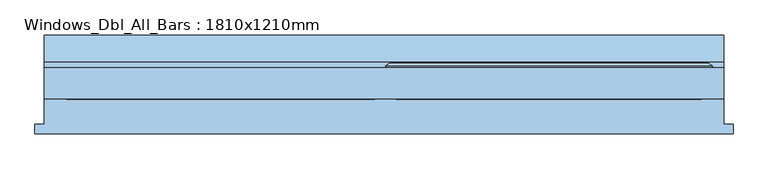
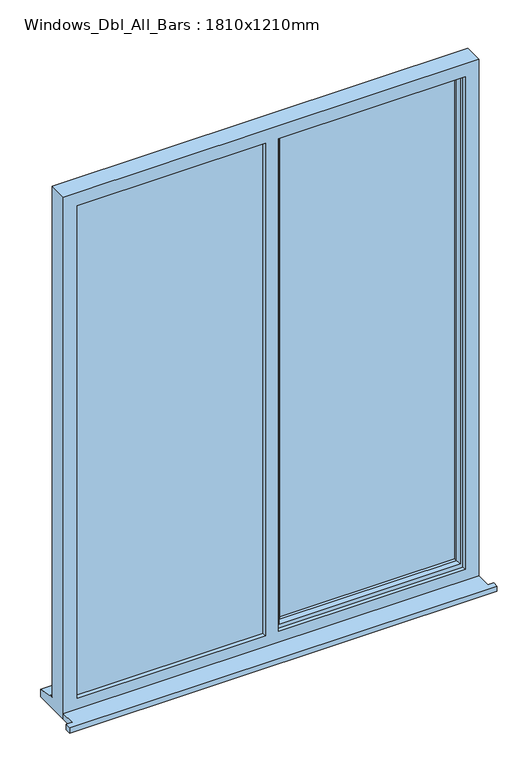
"""IFC4 building model written with IfcOpenShell, lengths in millimetres: window geometry, Windows_Dbl_All_Bars : 1810x1210mm."""

from ifc_helpers import new_model, si_unit, frame, origin, place, context, project, spatial, polyline, outline, extrude, faceted_brep, source, transform, mapped, element, save


def windows_dbl_all_bars_1810x1210mm_8c694ecc(model_context):
    return source(origin(), model_context, "Body", "SolidModel", [
        extrude(outline(polyline([(-1215.0, -116.5434322), (-1215.0, -91.5434322), (-1190.0, -91.5434322), (-1190.0, -24.5434322), (620.0, -24.5434322), (620.0, -91.5434322), (645.0, -91.5434322), (645.0, -116.5434322), (-1215.0, -116.5434322)])), frame((0.0, 0.0, -290.0), z_axis=(0.0, 0.0, 1.0), x_axis=(1.0, 0.0, 0.0)), (0.0, 0.0, 1.0), 25.0),
        extrude(outline(polyline([(1294.3333333, -715.0), (1294.3333333, -300.0), (1314.3333333, -300.0), (1314.3333333, -715.0), (2070.0, -715.0), (2070.0, -735.0), (1314.3333333, -735.0), (1314.3333333, -1150.0), (1294.3333333, -1150.0), (1294.3333333, -735.0), (548.6666667, -735.0), (548.6666667, -1150.0), (528.6666667, -1150.0), (528.6666667, -735.0), (-227.0, -735.0), (-227.0, -715.0), (528.6666667, -715.0), (528.6666667, -300.0), (548.6666667, -300.0), (548.6666667, -715.0), (1294.3333333, -715.0)])), frame((0.0, 1.4565678, 0.0), z_axis=(0.0, 1.0, 0.0), x_axis=(0.0, 0.0, 1.0)), (0.0, 0.0, 1.0), 8.0),
        faceted_brep([(620.0, -24.5434322, 2110.0), (-1190.0, -24.5434322, 2110.0), (-1190.0, -24.5434322, -290.0), (620.0, -24.5434322, -290.0), (560.0, -24.5434322, 2050.0), (560.0, -24.5434322, -215.0), (-252.0, -24.5434322, -215.0), (-252.0, -24.5434322, 2050.0), (-310.0, -24.5434322, 2050.0), (-310.0, -24.5434322, -215.0), (-1130.0, -24.5434322, -215.0), (-1130.0, -24.5434322, 2050.0), (-1190.0, 58.4565678, 2110.0), (-1190.0, 58.4565678, -239.0), (-1190.0, 73.4565678, -240.31233), (-1190.0, 73.4565678, -245.2550324), (-1190.0, 145.9565678, -256.1911153), (-1190.0, 145.9565678, -290.0), (620.0, 58.4565678, 2110.0), (620.0, 58.4565678, -239.0), (-1150.0, 58.4565678, 2070.0), (-1150.0, 58.4565678, -227.0), (-310.0, 58.4565678, -227.0), (-310.0, 58.4565678, 2070.0), (-270.0, 58.4565678, 2070.0), (-270.0, 58.4565678, -227.0), (580.0, 58.4565678, -227.0), (580.0, 58.4565678, 2070.0), (-1150.0, -6.5434322, 2070.0), (-1150.0, -6.5434322, -227.0), (-300.0, -6.5434322, 2070.0), (-300.0, -6.5434322, -227.0), (-310.0, -6.5434322, 2050.0), (-1130.0, -6.5434322, 2050.0), (-1130.0, -6.5434322, -215.0), (-310.0, -6.5434322, -215.0), (-270.0, -6.5434322, 2070.0), (580.0, -6.5434322, 2070.0), (580.0, -6.5434322, -227.0), (-270.0, -6.5434322, -227.0), (560.0, -6.5434322, 2050.0), (-252.0, -6.5434322, 2050.0), (-252.0, -6.5434322, -215.0), (560.0, -6.5434322, -215.0), (-310.0, 17.4565678, 2070.0), (-300.0, 17.4565678, 2070.0), (620.0, 145.9565678, -290.0), (620.0, 145.9565678, -256.1911153), (620.0, 73.4565678, -245.2550324), (620.0, 73.4565678, -240.31233), (-300.0, 17.4565678, -227.0), (-310.0, 17.4565678, -227.0)], [[[0, 1, 2, 3], [4, 5, 6, 7], [8, 9, 10, 11]], [[2, 1, 12, 13, 14, 15, 16, 17]], [[13, 12, 18, 19], [20, 21, 22, 23], [24, 25, 26, 27]], [[21, 20, 28, 29]], [[28, 30, 31, 29], [32, 33, 34, 35]], [[36, 37, 38, 39], [40, 41, 42, 43]], [[33, 11, 10, 34]], [[1, 0, 18, 12]], [[28, 20, 23, 44, 45, 30]], [[27, 37, 36, 24]], [[11, 33, 32, 8]], [[40, 4, 7, 41]], [[19, 18, 0, 3, 46, 47, 48, 49]], [[27, 26, 38, 37]], [[4, 40, 43, 5]], [[45, 50, 31, 30]], [[50, 45, 44, 51]], [[51, 44, 23, 22]], [[25, 24, 36, 39]], [[41, 7, 6, 42]], [[8, 32, 35, 9]], [[46, 3, 2, 17]], [[47, 46, 17, 16]], [[48, 47, 16, 15]], [[49, 48, 15, 14]], [[19, 49, 14, 13]], [[22, 21, 29, 31, 50, 51]], [[26, 25, 39, 38]], [[6, 5, 43, 42]], [[35, 34, 10, 9]]]),
        extrude(outline(polyline([(550.0, 22.4565678), (-240.0, 22.4565678), (-240.0, 46.4565678), (550.0, 46.4565678), (550.0, 22.4565678)])), frame((0.0, 0.0, -197.0), z_axis=(0.0, 0.0, 1.0), x_axis=(1.0, 0.0, 0.0)), (0.0, 0.0, 1.0), 2237.0),
        extrude(outline(polyline([(-1150.0, 17.4565678), (-300.0, 17.4565678), (-300.0, -6.5434322), (-1150.0, -6.5434322), (-1150.0, 17.4565678)])), frame((0.0, 0.0, -227.0), z_axis=(0.0, 0.0, 1.0), x_axis=(1.0, 0.0, 0.0)), (0.0, 0.0, 1.0), 2297.0),
        extrude(outline(polyline([(-197.0, 145.0), (-197.0, 165.0), (528.6666667, 165.0), (528.6666667, 550.0), (548.6666667, 550.0), (548.6666667, 165.0), (1294.3333333, 165.0), (1294.3333333, 550.0), (1314.3333333, 550.0), (1314.3333333, 165.0), (2040.0, 165.0), (2040.0, 145.0), (1314.3333333, 145.0), (1314.3333333, -240.0), (1294.3333333, -240.0), (1294.3333333, 145.0), (548.6666667, 145.0), (548.6666667, -240.0), (528.6666667, -240.0), (528.6666667, 145.0), (-197.0, 145.0)])), frame((0.0, 30.4565678, 0.0), z_axis=(0.0, 1.0, 0.0), x_axis=(0.0, 0.0, 1.0)), (0.0, 0.0, 1.0), 8.0),
        extrude(outline(polyline([(2050.0, -310.0), (2070.0, -310.0), (2070.0, -1150.0), (-227.0, -1150.0), (-227.0, -310.0), (-207.0, -310.0), (-207.0, -1130.0), (2050.0, -1130.0), (2050.0, -310.0)])), frame((0.0, 17.4565678, 0.0), z_axis=(0.0, 1.0, 0.0), x_axis=(0.0, 0.0, 1.0)), (0.0, 0.0, 1.0), 41.0),
        faceted_brep([(-280.0, 58.4565678, 2080.0), (-280.0, 64.2300705, 2080.0), (-280.0, 64.2300705, -237.0), (-280.0, 58.4565678, -237.0), (-270.0, -6.5434322, 2070.0), (-270.0, 58.4565678, 2070.0), (-270.0, 58.4565678, -227.0), (-270.0, -6.5434322, -227.0), (-230.0, 7.9494677, 2030.0), (-240.1480377, -6.5434322, 2040.1480377), (-240.1480377, -6.5434322, -197.1480377), (-230.0, 7.9494677, -187.0), (-230.0, 22.4565678, 2030.0), (-230.0, 22.4565678, -187.0), (-240.0, 46.4565678, 2040.0), (-240.0, 22.4565678, 2040.0), (-240.0, 22.4565678, -197.0), (-240.0, 46.4565678, -197.0), (-230.0, 64.2300705, 2030.0), (-230.0, 46.4565678, 2030.0), (-230.0, 46.4565678, -187.0), (-230.0, 64.2300705, -187.0), (-247.4457548, 70.0035732, 2047.4457548), (-247.4457548, 70.0035732, -204.4457548), (-269.2153903, 70.0035732, 2069.2153903), (-269.2153903, 70.0035732, -226.2153903), (590.0, 64.2300705, -237.0), (590.0, 58.4565678, -237.0), (580.0, 58.4565678, -227.0), (580.0, -6.5434322, -227.0), (550.1480377, -6.5434322, -197.1480377), (540.0, 7.9494677, -187.0), (540.0, 22.4565678, -187.0), (550.0, 22.4565678, -197.0), (550.0, 46.4565678, -197.0), (540.0, 46.4565678, -187.0), (540.0, 64.2300705, -187.0), (557.4457548, 70.0035732, -204.4457548), (579.2153903, 70.0035732, -226.2153903), (590.0, 64.2300705, 2080.0), (590.0, 58.4565678, 2080.0), (580.0, 58.4565678, 2070.0), (580.0, -6.5434322, 2070.0), (550.1480377, -6.5434322, 2040.1480377), (540.0, 7.9494677, 2030.0), (540.0, 22.4565678, 2030.0), (550.0, 22.4565678, 2040.0), (550.0, 46.4565678, 2040.0), (540.0, 46.4565678, 2030.0), (540.0, 64.2300705, 2030.0), (557.4457548, 70.0035732, 2047.4457548), (579.2153903, 70.0035732, 2069.2153903)], [[[0, 1, 2, 3]], [[4, 5, 6, 7]], [[8, 9, 10, 11]], [[12, 8, 11, 13]], [[14, 15, 16, 17]], [[18, 19, 20, 21]], [[22, 18, 21, 23]], [[1, 24, 25, 2]], [[3, 2, 26, 27]], [[7, 6, 28, 29]], [[11, 10, 30, 31]], [[13, 11, 31, 32]], [[17, 16, 33, 34]], [[21, 20, 35, 36]], [[23, 21, 36, 37]], [[2, 25, 38, 26]], [[27, 26, 39, 40]], [[29, 28, 41, 42]], [[31, 30, 43, 44]], [[32, 31, 44, 45]], [[34, 33, 46, 47]], [[36, 35, 48, 49]], [[37, 36, 49, 50]], [[26, 38, 51, 39]], [[40, 39, 1, 0]], [[3, 27, 40, 0], [5, 41, 28, 6]], [[42, 41, 5, 4]], [[7, 29, 42, 4], [9, 43, 30, 10]], [[44, 43, 9, 8]], [[45, 44, 8, 12]], [[15, 46, 33, 16], [13, 32, 45, 12]], [[47, 46, 15, 14]], [[17, 34, 47, 14], [19, 48, 35, 20]], [[49, 48, 19, 18]], [[50, 49, 18, 22]], [[24, 51, 38, 25], [23, 37, 50, 22]], [[39, 51, 24, 1]]]),
    ])


if __name__ == "__main__":
    model = new_model("IFC4")
    model_context = context("Model", 3, world=origin())
    ifc_project = project(units=[si_unit("LENGTHUNIT", "METRE", prefix="MILLI")], contexts=[model_context])
    site = spatial("IfcSite", under=ifc_project)
    building = spatial("IfcBuilding", under=site)
    placement = place(None, origin())
    windows_dbl_all_bars_1810x1210mm_shape = windows_dbl_all_bars_1810x1210mm_8c694ecc(model_context)
    element("IfcWindow", 1, ObjectType="Windows_Dbl_All_Bars : 1810x1210mm", at=placement, inside=building, context=model_context, shape_type="MappedRepresentation", body=[
        mapped(windows_dbl_all_bars_1810x1210mm_shape, transform((0.0, 0.0, 0.0), x_axis=(1.0, 0.0, 0.0), y_axis=(0.0, 1.0, 0.0), z_axis=(0.0, 0.0, 1.0))),
    ])
    save(model, "model.ifc")
